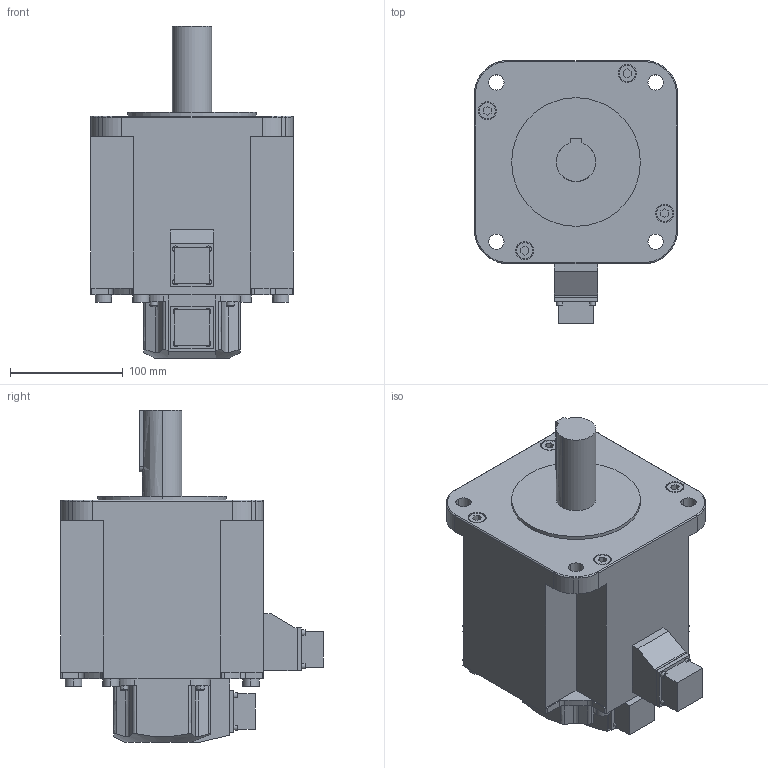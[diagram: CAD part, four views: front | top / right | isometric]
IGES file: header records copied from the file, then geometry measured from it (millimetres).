
Start section:  PTC IGES file: rsmh_30ask3.igs
Global section: file name: rsmh_30ask3.igs; native system: Pro/ENGINEER by Parametric Technology Corporation; preprocessor: 2004440; author: Administrator; organization: Unknown; date: 070829.192600; units: millimetre
Bounding box: 180 x 233 x 295 mm (x, y, z)
Volume: 4917167.8 mm3; surface area: 223956.5 mm2
Topology: 1 solids, 1 shells, 290 faces, 744 edges, 488 vertices
Faces by surface type: bspline 164, revolution 126
